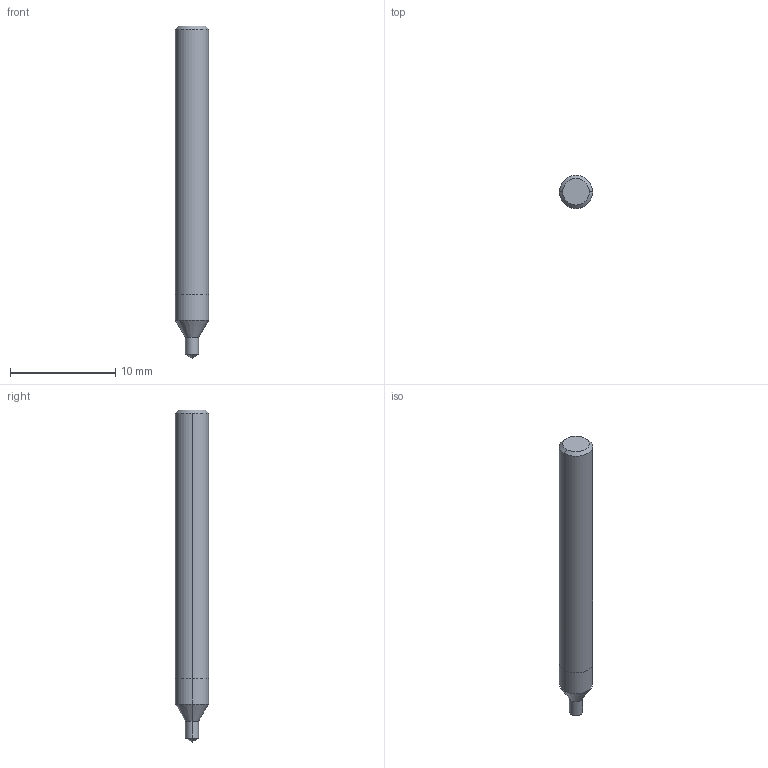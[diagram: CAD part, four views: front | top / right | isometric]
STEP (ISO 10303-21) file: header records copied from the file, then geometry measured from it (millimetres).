
FILE_DESCRIPTION (( 'STEP AP214' ), '1' );
FILE_NAME ('608.125.09_3D-model.step', '2022-02-20T19:44:54', ( '' ), ( '' ), 'SwSTEP 2.0', 'SolidWorks 2020', '' );
FILE_SCHEMA (( 'AUTOMOTIVE_DESIGN' ));
Length unit declared in the file: millimetre
Products named in the file (3): CUT-3D^Baugr122; 608.125.09_3D-model; NOCUT-3D^Baugr122
Assembly tree (2 placements, depth 2):
  608.125.09_3D-model
    CUT-3D^Baugr122
    NOCUT-3D^Baugr122
Bounding box: 3.15 x 3.15 x 31.5 mm (x, y, z)
Volume: 225.7 mm3; surface area: 318.3 mm2
Topology: 2 solids, 2 shells, 15 faces, 28 edges, 15 vertices
Faces by surface type: cone 6, cylinder 6, plane 3
Entity records: 480 total; most frequent: DIRECTION 86, CARTESIAN_POINT 64, ORIENTED_EDGE 52, AXIS2_PLACEMENT_3D 37, EDGE_CURVE 26, ADVANCED_FACE 15, FACE_OUTER_BOUND 15, VERTEX_POINT 15
